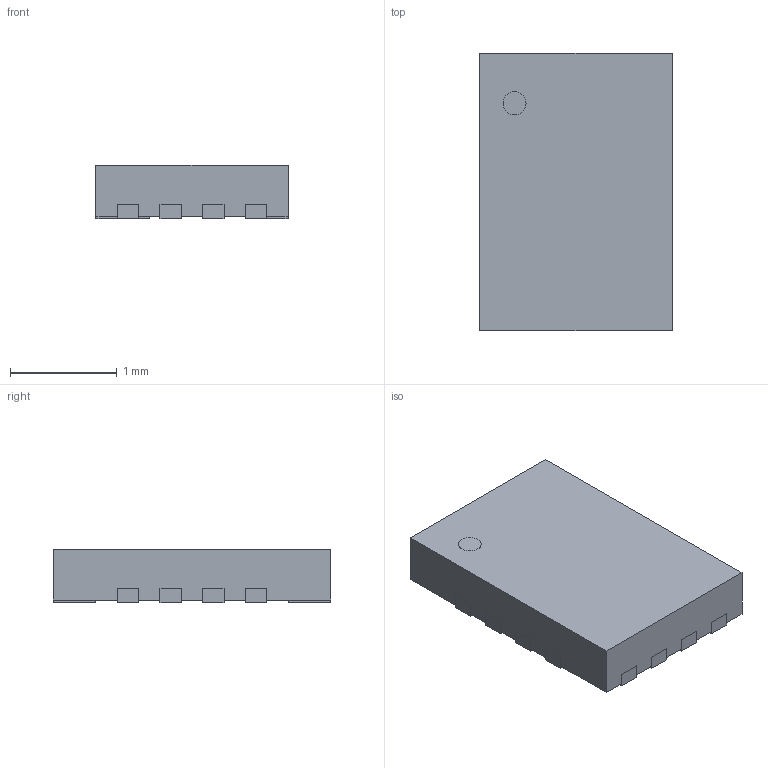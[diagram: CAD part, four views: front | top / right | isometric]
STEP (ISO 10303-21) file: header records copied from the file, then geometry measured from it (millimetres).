
FILE_DESCRIPTION(('Open CASCADE Model'),'2;1');
FILE_NAME('Open CASCADE Shape Model','2026-10-04T11:29:43',('Author'),( 'Open CASCADE'),'Open CASCADE STEP processor 7.9','Open CASCADE 7.9' ,'Unknown');
FILE_SCHEMA(('AUTOMOTIVE_DESIGN { 1 0 10303 214 1 1 1 1 }'));
Length unit declared in the file: millimetre
Products named in the file (4): TI_RSV0016A_Nominal; package_body; terminals; illustrative_pin1_index
Assembly tree (3 placements, depth 2):
  TI_RSV0016A_Nominal
    package_body
    terminals
    illustrative_pin1_index
Bounding box: 1.8 x 2.6 x 0.5 mm (x, y, z)
Volume: 2.3 mm3; surface area: 20.1 mm2
Topology: 18 solids, 18 shells, 171 faces, 402 edges, 268 vertices
Faces by surface type: plane 169, cylinder 2
Full cylindrical faces by diameter (mm): 0.216 x2
Entity records: 10092 total; most frequent: CARTESIAN_POINT 1745, DIRECTION 1464, LINE 1102, VECTOR 1102, ORIENTED_EDGE 804, PCURVE 804, DEFINITIONAL_REPRESENTATION 804, EDGE_CURVE 402
